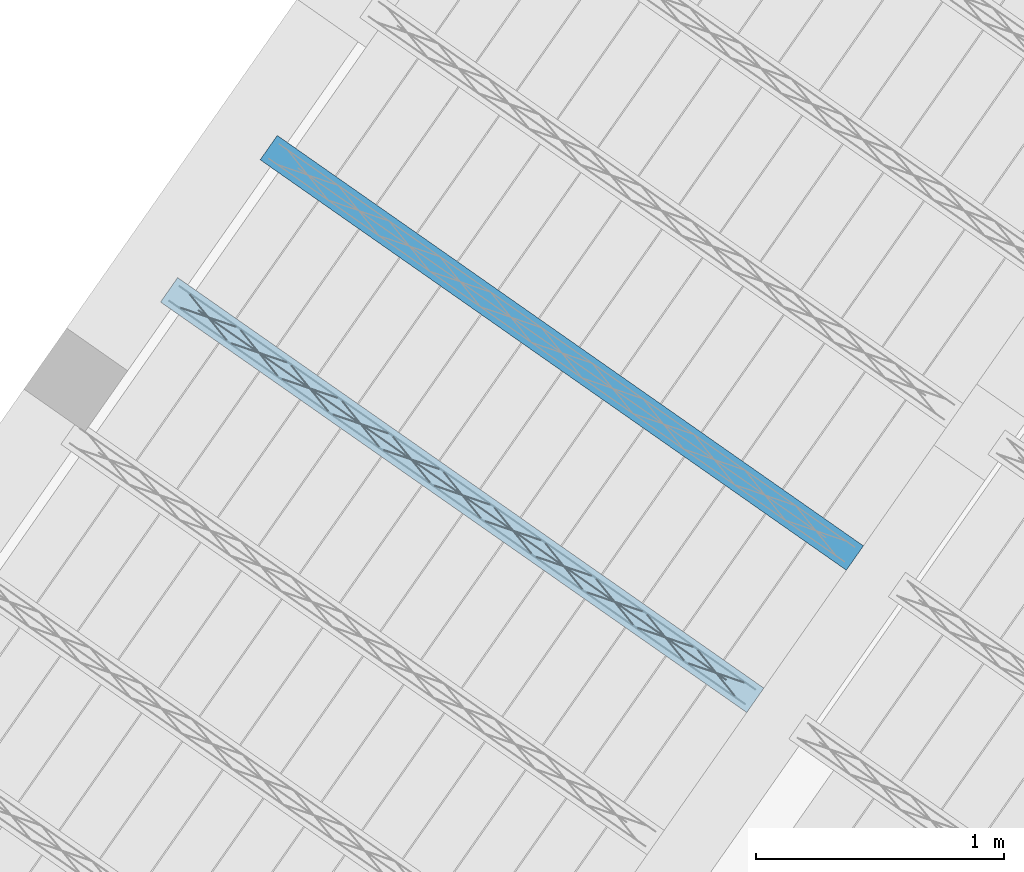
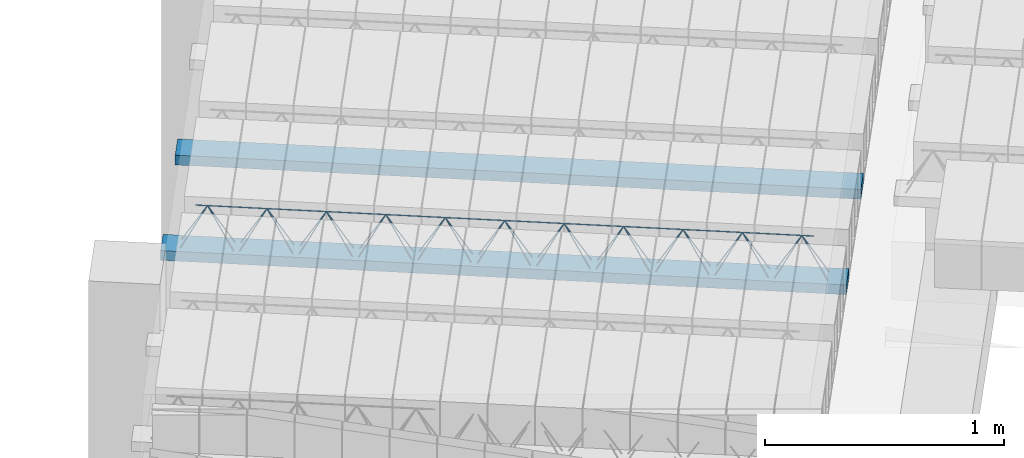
# One storey, part 19 of 80: 2 beams.
"""IFC2X3 building model written with IfcOpenShell, lengths in metres."""

import ifcopenshell
import ifcopenshell.guid

model = None  # the IFC model being written
_history = None  # IfcOwnerHistory: only IFC2X3 demands one
_inside = {}  # id of a spatial element -> (the spatial element, [elements in it])
_under = {}  # id of a project, library or spatial element -> (it, [spatial elements below it])
_declared = {}  # id of a project -> (the project, [libraries it declares])
_typed = {}  # id of a type object -> (the type object, [elements of that type])
_made_of = {}  # id of a material, layer set ... -> (it, [elements and type objects made of it])


def new_model(schema):
    """Start an empty IFC model of exactly this schema.

    Asked for "IFC4X3", IfcOpenShell would pick the latest addendum, in which some entities
    have other attributes; the version numbers below select the first issue.
    IFC2X3 requires an IfcOwnerHistory on every rooted entity: one is made here for all.
    """
    global model, _history
    if schema == "IFC4X3":
        model = ifcopenshell.file(schema_version=(4, 3, 0, 0))
    else:
        model = ifcopenshell.file(schema=schema)
    _inside.clear()
    _under.clear()
    _declared.clear()
    _typed.clear()
    _made_of.clear()
    _history = None
    if model.schema == "IFC2X3":
        org = make("IfcOrganization", Name="unknown")
        user = make(
            "IfcPersonAndOrganization",
            ThePerson=make("IfcPerson", FamilyName="unknown"),
            TheOrganization=org,
        )
        app = make(
            "IfcApplication",
            ApplicationDeveloper=org,
            Version="unknown",
            ApplicationFullName="unknown",
            ApplicationIdentifier="unknown",
        )
        _history = make(
            "IfcOwnerHistory",
            OwningUser=user,
            OwningApplication=app,
            ChangeAction="ADDED",
            CreationDate=0,
        )
    return model


def make(cls, **values):
    """One entity of the class cls with the attributes given. An attribute that is None is left unset."""
    return model.create_entity(
        cls, **{name: value for name, value in values.items() if value is not None}
    )


def entity(cls, *values):
    """Any entity or typed value of the class cls, its attributes in the order of the schema. None: left unset."""
    e = model.create_entity(cls)
    for i, value in enumerate(values):
        if value is not None:
            e[i] = value
    return e


def rooted(cls, **values):
    """An entity with a GlobalId (a new one), such as an element, a storey or a relation."""
    return make(cls, GlobalId=ifcopenshell.guid.new(), OwnerHistory=_history, **values)


def si_unit(unit_type, name, prefix=None):
    """IfcSIUnit, for example si_unit("LENGTHUNIT", "METRE", prefix="MILLI")."""
    return make("IfcSIUnit", UnitType=unit_type, Prefix=prefix, Name=name)


def converted_unit(unit_type, name, factor, base, dimensions=None, offset=None):
    """IfcConversionBasedUnit, such as the inch: factor (a typed value) times the base unit."""
    return make(
        "IfcConversionBasedUnit"
        if offset is None
        else "IfcConversionBasedUnitWithOffset",
        ConversionOffset=offset,
        Dimensions=None
        if dimensions is None
        else entity("IfcDimensionalExponents", *dimensions),
        UnitType=unit_type,
        Name=name,
        ConversionFactor=make(
            "IfcMeasureWithUnit", ValueComponent=factor, UnitComponent=base
        ),
    )


def derived_unit(unit_type, elements):
    """IfcDerivedUnit: a product of units, each with its exponent."""
    return make(
        "IfcDerivedUnit",
        Elements=[
            make("IfcDerivedUnitElement", Unit=unit, Exponent=power)
            for unit, power in elements
        ],
        UnitType=unit_type,
    )


def assignment(units):
    """IfcUnitAssignment: the units of a project."""
    return None if units is None else make("IfcUnitAssignment", Units=units)


def point(xyz):
    """IfcCartesianPoint."""
    return None if xyz is None else make("IfcCartesianPoint", Coordinates=xyz)


def direction(xyz):
    """IfcDirection."""
    return None if xyz is None else make("IfcDirection", DirectionRatios=xyz)


def frame(location, z_axis=None, x_axis=None):
    """IfcAxis2Placement3D, a coordinate frame: its origin and axes. An axis left out is left unset."""
    return make(
        "IfcAxis2Placement3D",
        Location=point(location),
        Axis=direction(z_axis),
        RefDirection=direction(x_axis),
    )


def frame_2d(location, x_axis=None):
    """IfcAxis2Placement2D, a coordinate frame in the plane: its origin and x axis."""
    return make(
        "IfcAxis2Placement2D", Location=point(location), RefDirection=direction(x_axis)
    )


def origin():
    """The frame at (0, 0, 0) with its axes left unset."""
    return frame((0.0, 0.0, 0.0))


def origin_2d_with_axis():
    """The frame at (0, 0) in the plane with the x axis (1, 0) written out."""
    return frame_2d((0.0, 0.0), x_axis=(1.0, 0.0))


def place(relative_to, where):
    """IfcLocalPlacement: puts the frame where relative to a parent placement (None: the world)."""
    return make(
        "IfcLocalPlacement", PlacementRelTo=relative_to, RelativePlacement=where
    )


def context(
    kind, dimensions, precision=None, world=None, true_north=None, identifier=None
):
    """IfcGeometricRepresentationContext, for example the 3D "Model" context."""
    return make(
        "IfcGeometricRepresentationContext",
        ContextIdentifier=identifier,
        ContextType=kind,
        CoordinateSpaceDimension=dimensions,
        Precision=precision,
        WorldCoordinateSystem=world,
        TrueNorth=true_north,
    )


def subcontext(parent, identifier, kind, view, scale=None):
    """IfcGeometricRepresentationSubContext, for example "Body" below "Model"."""
    return make(
        "IfcGeometricRepresentationSubContext",
        ContextIdentifier=identifier,
        ContextType=kind,
        ParentContext=parent,
        TargetScale=scale,
        TargetView=view,
    )


def project(units=None, contexts=None):
    """IfcProject with its units and contexts."""
    return rooted(
        "IfcProject",
        Name="project",
        RepresentationContexts=contexts,
        UnitsInContext=assignment(units),
    )


def spatial(cls, under=None, at=None, **own):
    """A site, building, storey or space (cls), placed at a placement, below another one or the project."""
    s = rooted(cls, ObjectPlacement=at, **own)
    if under is not None:
        _under.setdefault(under.id(), (under, []))[1].append(s)
    return s


def profile(cls, at=None, kind="AREA", **sizes):
    """A parametric profile (cls). Its sizes go by their IFC names, for example OverallWidth=200.0."""
    return make(cls, ProfileType=kind, Position=at, **sizes)


def rectangle(**sizes):
    """IfcRectangleProfileDef."""
    return profile("IfcRectangleProfileDef", **sizes)


def circle(**sizes):
    """IfcCircleProfileDef."""
    return profile("IfcCircleProfileDef", **sizes)


def extrude(swept, where, along, depth):
    """IfcExtrudedAreaSolid: the profile swept, set in the frame where, extruded along a direction by depth."""
    return make(
        "IfcExtrudedAreaSolid",
        SweptArea=swept,
        Position=where,
        ExtrudedDirection=direction(along),
        Depth=depth,
    )


def shape(context_of_items, identifier, shape_type, items):
    """IfcShapeRepresentation: the items that make up one representation, for example the "Body"."""
    return make(
        "IfcShapeRepresentation",
        ContextOfItems=context_of_items,
        RepresentationIdentifier=identifier,
        RepresentationType=shape_type,
        Items=items,
    )


def material(Name=None, Category=None):
    """IfcMaterial."""
    return make("IfcMaterial", Name=Name, Category=Category)


def made_of(thing, what):
    """Note that an element or type object is made of a material, layer set ...; save() writes the relation."""
    if what is not None:
        _made_of.setdefault(what.id(), (what, []))[1].append(thing)
    return thing


def type_object(cls, material=None, **own):
    """A type object (cls), such as IfcWallType, which elements share."""
    return made_of(rooted(cls, **own), material)


def element(
    cls,
    number,
    at=None,
    inside=None,
    cuts=None,
    type_object=None,
    material=None,
    context=None,
    identifier="Body",
    shape_type=None,
    held_by="IfcProductDefinitionShape",
    body=None,
    shapes=None,
    **own,
):
    """One element of the class cls, such as IfcWall. Its Tag is "e" and its number.

    at: its placement. inside: the storey or other place that contains it. cuts: it is an
    opening in that element (IfcRelVoidsElement). A single representation is given by context,
    identifier, shape_type and body (its items); several are given by shapes. held_by: the class
    of the entity that holds the representations. save() writes the other relations.
    """
    e = rooted(cls, Tag="e%d" % number, ObjectPlacement=at, **own)
    if body is not None:
        shapes = [shape(context, identifier, shape_type, body)]
    if shapes is not None:
        e.Representation = make(held_by, Representations=shapes)
    if inside is not None:
        _inside.setdefault(inside.id(), (inside, []))[1].append(e)
    if cuts is not None:
        rooted(
            "IfcRelVoidsElement", RelatingBuildingElement=cuts, RelatedOpeningElement=e
        )
    if type_object is not None:
        _typed.setdefault(type_object.id(), (type_object, []))[1].append(e)
    return made_of(e, material)


def aggregate(whole, parts):
    """IfcRelAggregates: a whole, such as a stair, and the parts it consists of."""
    return rooted("IfcRelAggregates", RelatingObject=whole, RelatedObjects=parts)


def save(model, path):
    """Write the relations noted so far, then the file.

    IfcRelAggregates (storeys below a building ...), IfcRelContainedInSpatialStructure (elements
    in a storey), IfcRelDefinesByType, IfcRelAssociatesMaterial and IfcRelDeclares: one each for
    every whole, place, type object, material and project.
    """
    for whole, parts in _under.values():
        aggregate(whole, parts)
    for where, things in _inside.values():
        rooted(
            "IfcRelContainedInSpatialStructure",
            RelatedElements=things,
            RelatingStructure=where,
        )
    for kind, things in _typed.values():
        rooted("IfcRelDefinesByType", RelatedObjects=things, RelatingType=kind)
    for what, things in _made_of.values():
        rooted("IfcRelAssociatesMaterial", RelatedObjects=things, RelatingMaterial=what)
    for by, libraries in _declared.values():
        rooted("IfcRelDeclares", RelatingContext=by, RelatedDefinitions=libraries)
    model.write(path)


model = new_model("IFC2X3")

# Units and contexts
model_context = context("Model", 3, precision=1e-05, world=origin(), true_north=direction((6.123031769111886e-17, 1.0)))
body_context = subcontext(model_context, "Body", "Model", "MODEL_VIEW")
ifc_project = project(units=[si_unit("LENGTHUNIT", "METRE"), si_unit("AREAUNIT", "SQUARE_METRE"), si_unit("VOLUMEUNIT", "CUBIC_METRE"), converted_unit("PLANEANGLEUNIT", "DEGREE", entity("IfcPlaneAngleMeasure", 0.017453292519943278), si_unit("PLANEANGLEUNIT", "RADIAN"), dimensions=[0, 0, 0, 0, 0, 0, 0]), si_unit("MASSUNIT", "GRAM", prefix="KILO"), derived_unit("MASSDENSITYUNIT", [(si_unit("MASSUNIT", "GRAM", prefix="KILO"), 1), (si_unit("LENGTHUNIT", "METRE"), -3)]), derived_unit("IONCONCENTRATIONUNIT", [(si_unit("MASSUNIT", "GRAM", prefix="KILO"), 1), (si_unit("LENGTHUNIT", "METRE"), -3)]), derived_unit("MOMENTOFINERTIAUNIT", [(si_unit("LENGTHUNIT", "METRE"), 4)]), si_unit("TIMEUNIT", "SECOND"), si_unit("FREQUENCYUNIT", "HERTZ"), si_unit("THERMODYNAMICTEMPERATUREUNIT", "DEGREE_CELSIUS"), derived_unit("THERMALTRANSMITTANCEUNIT", [(si_unit("MASSUNIT", "GRAM", prefix="KILO"), 1), (si_unit("THERMODYNAMICTEMPERATUREUNIT", "KELVIN"), -1), (si_unit("TIMEUNIT", "SECOND"), -3)]), derived_unit("THERMALCONDUCTANCEUNIT", [(si_unit("MASSUNIT", "GRAM", prefix="KILO"), 1), (si_unit("THERMODYNAMICTEMPERATUREUNIT", "KELVIN"), -1), (si_unit("TIMEUNIT", "SECOND"), -3), (si_unit("LENGTHUNIT", "METRE"), 1)]), derived_unit("VOLUMETRICFLOWRATEUNIT", [(si_unit("LENGTHUNIT", "METRE", prefix="DECI"), 3), (si_unit("TIMEUNIT", "SECOND"), -1)]), derived_unit("MASSFLOWRATEUNIT", [(si_unit("MASSUNIT", "GRAM", prefix="KILO"), 1), (si_unit("TIMEUNIT", "SECOND"), -1)]), derived_unit("ROTATIONALFREQUENCYUNIT", [(si_unit("TIMEUNIT", "SECOND"), -1)]), si_unit("ELECTRICCURRENTUNIT", "AMPERE"), si_unit("ELECTRICVOLTAGEUNIT", "VOLT"), si_unit("POWERUNIT", "WATT"), si_unit("FORCEUNIT", "NEWTON", prefix="KILO"), si_unit("ILLUMINANCEUNIT", "LUX"), si_unit("LUMINOUSFLUXUNIT", "LUMEN"), si_unit("LUMINOUSINTENSITYUNIT", "CANDELA"), si_unit("ENERGYUNIT", "JOULE"), derived_unit("USERDEFINED", [(si_unit("MASSUNIT", "GRAM", prefix="KILO"), -1), (si_unit("LENGTHUNIT", "METRE"), -2), (si_unit("TIMEUNIT", "SECOND"), 3), (si_unit("LUMINOUSFLUXUNIT", "LUMEN"), 1)]), derived_unit("USERDEFINED", [(si_unit("MASSUNIT", "GRAM", prefix="KILO"), 1), (si_unit("TIMEUNIT", "SECOND"), -3), (si_unit("LENGTHUNIT", "METRE"), 3), (si_unit("ELECTRICCURRENTUNIT", "AMPERE"), -2)]), derived_unit("SOUNDPOWERUNIT", [(si_unit("MASSUNIT", "GRAM", prefix="KILO"), 1), (si_unit("TIMEUNIT", "SECOND"), -3), (si_unit("LENGTHUNIT", "METRE"), 2)]), derived_unit("SOUNDPRESSUREUNIT", [(si_unit("MASSUNIT", "GRAM", prefix="KILO"), 1), (si_unit("LENGTHUNIT", "METRE"), -1), (si_unit("TIMEUNIT", "SECOND"), -2)]), derived_unit("LINEARVELOCITYUNIT", [(si_unit("LENGTHUNIT", "METRE"), 1), (si_unit("TIMEUNIT", "SECOND"), -1)]), si_unit("PRESSUREUNIT", "PASCAL"), derived_unit("USERDEFINED", [(si_unit("MASSUNIT", "GRAM", prefix="KILO"), 1), (si_unit("LENGTHUNIT", "METRE"), -2), (si_unit("TIMEUNIT", "SECOND"), -2)]), derived_unit("LINEARFORCEUNIT", [(si_unit("MASSUNIT", "GRAM", prefix="KILO"), 1), (si_unit("TIMEUNIT", "SECOND"), -2)]), derived_unit("PLANARFORCEUNIT", [(si_unit("MASSUNIT", "GRAM", prefix="KILO"), 1), (si_unit("LENGTHUNIT", "METRE"), -1), (si_unit("TIMEUNIT", "SECOND"), -2)]), derived_unit("SPECIFICHEATCAPACITYUNIT", [(si_unit("THERMODYNAMICTEMPERATUREUNIT", "KELVIN"), -1), (si_unit("LENGTHUNIT", "METRE"), 2), (si_unit("TIMEUNIT", "SECOND"), -2)]), derived_unit("HEATFLUXDENSITYUNIT", [(si_unit("MASSUNIT", "GRAM", prefix="KILO"), 1), (si_unit("TIMEUNIT", "SECOND"), -3)]), derived_unit("HEATINGVALUEUNIT", [(si_unit("LENGTHUNIT", "METRE"), 2), (si_unit("TIMEUNIT", "SECOND"), -2)]), derived_unit("VAPORPERMEABILITYUNIT", [(si_unit("LENGTHUNIT", "METRE"), -1), (si_unit("TIMEUNIT", "SECOND"), 1)]), derived_unit("DYNAMICVISCOSITYUNIT", [(si_unit("MASSUNIT", "GRAM", prefix="KILO"), 1), (si_unit("TIMEUNIT", "SECOND"), -1), (si_unit("LENGTHUNIT", "METRE"), -1)]), derived_unit("THERMALEXPANSIONCOEFFICIENTUNIT", [(si_unit("THERMODYNAMICTEMPERATUREUNIT", "KELVIN"), -1)]), derived_unit("MODULUSOFELASTICITYUNIT", [(si_unit("MASSUNIT", "GRAM", prefix="KILO"), 1), (si_unit("LENGTHUNIT", "METRE"), -1), (si_unit("TIMEUNIT", "SECOND"), -2)]), derived_unit("ISOTHERMALMOISTURECAPACITYUNIT", [(si_unit("MASSUNIT", "GRAM", prefix="KILO"), -1), (si_unit("LENGTHUNIT", "METRE"), 3)]), derived_unit("MOISTUREDIFFUSIVITYUNIT", [(si_unit("TIMEUNIT", "SECOND"), -1), (si_unit("LENGTHUNIT", "METRE"), 2)]), derived_unit("MASSPERLENGTHUNIT", [(si_unit("MASSUNIT", "GRAM", prefix="KILO"), 1), (si_unit("LENGTHUNIT", "METRE"), -1)]), derived_unit("THERMALRESISTANCEUNIT", [(si_unit("MASSUNIT", "GRAM", prefix="KILO"), -1), (si_unit("TIMEUNIT", "SECOND"), 3), (si_unit("THERMODYNAMICTEMPERATUREUNIT", "KELVIN"), 1)]), derived_unit("ACCELERATIONUNIT", [(si_unit("LENGTHUNIT", "METRE"), 1), (si_unit("TIMEUNIT", "SECOND"), -2)]), derived_unit("ANGULARVELOCITYUNIT", [(si_unit("TIMEUNIT", "SECOND"), -1), (si_unit("PLANEANGLEUNIT", "RADIAN"), 1)]), derived_unit("LINEARSTIFFNESSUNIT", [(si_unit("MASSUNIT", "GRAM", prefix="KILO"), 1), (si_unit("TIMEUNIT", "SECOND"), -2)]), derived_unit("WARPINGCONSTANTUNIT", [(si_unit("LENGTHUNIT", "METRE"), 6)]), derived_unit("LINEARMOMENTUNIT", [(si_unit("MASSUNIT", "GRAM", prefix="KILO"), 1), (si_unit("LENGTHUNIT", "METRE"), 1), (si_unit("TIMEUNIT", "SECOND"), -2)]), derived_unit("TORQUEUNIT", [(si_unit("MASSUNIT", "GRAM", prefix="KILO"), 1), (si_unit("LENGTHUNIT", "METRE"), 2), (si_unit("TIMEUNIT", "SECOND"), -2)])], contexts=[model_context])

# Site, building, storey
site_placement = place(None, origin())
site = spatial("IfcSite", under=ifc_project, at=site_placement, Name="Default", CompositionType="ELEMENT")
building_placement = place(site_placement, origin())
building = spatial("IfcBuilding", under=site, at=building_placement, CompositionType="ELEMENT")
storey_placement = place(building_placement, frame((0.0, 0.0, 95.94)))
storey = spatial("IfcBuildingStorey", under=building, at=storey_placement, Name="PB", CompositionType="ELEMENT", Elevation=95.94)

# Beams
beam_type = type_object("IfcBeamType", Name="Vigueta 6 (Paño 2) (Mf = 11.1)", PredefinedType="JOIST")
beam_1_placement = place(storey_placement, origin())
element("IfcBeam", 1, at=beam_1_placement, inside=storey, type_object=beam_type, Name="Vigueta 6 (Paño 2) (Mf = 11.1)", ObjectType="Mf = 11.1", context=body_context, shape_type="SweptSolid", body=[
    extrude(rectangle(XDim=2.8846030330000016, YDim=0.11999999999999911, at=frame_2d((0.0, 4.718447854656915e-16), x_axis=(1.0, 0.0))), frame((2.0088632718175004, 4.7586349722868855, 2.82), z_axis=(0.0, 0.0, 1.0), x_axis=(0.8191520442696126, -0.5735764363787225, 0.0)), (0.0, 0.0, 1.0), 0.04999999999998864),
    extrude(circle(Radius=0.0025, at=origin_2d_with_axis()), frame((0.8264099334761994, 5.542649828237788, 2.8449999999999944), z_axis=(0.8191520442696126, -0.5735764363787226, 0.0), x_axis=(-0.5735764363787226, -0.8191520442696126, 0.0)), (0.0, 0.0, 1.0), 2.8366030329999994),
    extrude(circle(Radius=0.0025, at=origin_2d_with_axis()), frame((3.0737609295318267, 4.012985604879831, 3.069999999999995), z_axis=(-0.8191520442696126, 0.5735764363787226, 0.0), x_axis=(-0.5735764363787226, -0.8191520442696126, 0.0)), (0.0, 0.0, 1.0), 2.6),
    extrude(circle(Radius=0.0025, at=origin_2d_with_axis()), frame((3.1145485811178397, 3.940477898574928, 2.8449999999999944), z_axis=(-0.3145304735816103, 0.389334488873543, 0.8657304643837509), x_axis=(-0.7778747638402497, -0.6284193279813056, 0.0)), (0.0, 0.0, 1.0), 0.2598961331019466),
    extrude(circle(Radius=0.0025, at=origin_2d_with_axis()), frame((2.909760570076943, 4.08387200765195, 2.8449999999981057), z_axis=(0.47343050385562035, -0.1624017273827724, 0.8657304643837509), x_axis=(-0.3244721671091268, -0.9458952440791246, 0.0)), (0.0, 0.0, 1.0), 0.25989613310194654),
    extrude(circle(Radius=0.0025, at=origin_2d_with_axis()), frame((2.9097605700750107, 4.083872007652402, 2.8449999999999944), z_axis=(-0.3145304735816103, 0.389334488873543, 0.8657304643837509), x_axis=(-0.7778747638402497, -0.6284193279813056, 0.0)), (0.0, 0.0, 1.0), 0.2598961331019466),
    extrude(circle(Radius=0.0025, at=origin_2d_with_axis()), frame((2.70497255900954, 4.22726611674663, 2.8449999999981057), z_axis=(0.47343050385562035, -0.1624017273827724, 0.8657304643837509), x_axis=(-0.3244721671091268, -0.9458952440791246, 0.0)), (0.0, 0.0, 1.0), 0.25989613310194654),
    extrude(circle(Radius=0.0025, at=origin_2d_with_axis()), frame((2.704972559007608, 4.227266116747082, 2.8449999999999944), z_axis=(-0.3145304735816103, 0.389334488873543, 0.8657304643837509), x_axis=(-0.7778747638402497, -0.6284193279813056, 0.0)), (0.0, 0.0, 1.0), 0.2598961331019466),
    extrude(circle(Radius=0.0025, at=origin_2d_with_axis()), frame((2.500184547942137, 4.370660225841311, 2.8449999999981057), z_axis=(0.47343050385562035, -0.1624017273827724, 0.8657304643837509), x_axis=(-0.3244721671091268, -0.9458952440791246, 0.0)), (0.0, 0.0, 1.0), 0.25989613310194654),
    extrude(circle(Radius=0.0025, at=origin_2d_with_axis()), frame((2.5001845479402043, 4.370660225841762, 2.8449999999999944), z_axis=(-0.3145304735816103, 0.389334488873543, 0.8657304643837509), x_axis=(-0.7778747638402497, -0.6284193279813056, 0.0)), (0.0, 0.0, 1.0), 0.2598961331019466),
    extrude(circle(Radius=0.0025, at=origin_2d_with_axis()), frame((2.295396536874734, 4.514054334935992, 2.8449999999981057), z_axis=(0.47343050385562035, -0.1624017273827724, 0.8657304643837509), x_axis=(-0.3244721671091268, -0.9458952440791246, 0.0)), (0.0, 0.0, 1.0), 0.25989613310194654),
    extrude(circle(Radius=0.0025, at=origin_2d_with_axis()), frame((2.2953965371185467, 4.514054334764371, 2.8449999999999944), z_axis=(-0.3145304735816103, 0.389334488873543, 0.8657304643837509), x_axis=(-0.7778747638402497, -0.6284193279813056, 0.0)), (0.0, 0.0, 1.0), 0.2598961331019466),
    extrude(circle(Radius=0.0025, at=origin_2d_with_axis()), frame((2.0906085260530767, 4.657448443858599, 2.8449999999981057), z_axis=(0.47343050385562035, -0.1624017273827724, 0.8657304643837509), x_axis=(-0.3244721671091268, -0.9458952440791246, 0.0)), (0.0, 0.0, 1.0), 0.25989613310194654),
    extrude(circle(Radius=0.0025, at=origin_2d_with_axis()), frame((2.0906085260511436, 4.657448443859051, 2.8449999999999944), z_axis=(-0.3145304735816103, 0.389334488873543, 0.8657304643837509), x_axis=(-0.7778747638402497, -0.6284193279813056, 0.0)), (0.0, 0.0, 1.0), 0.2598961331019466),
    extrude(circle(Radius=0.0025, at=origin_2d_with_axis()), frame((1.8858205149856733, 4.80084255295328, 2.8449999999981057), z_axis=(0.47343050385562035, -0.1624017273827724, 0.8657304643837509), x_axis=(-0.3244721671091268, -0.9458952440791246, 0.0)), (0.0, 0.0, 1.0), 0.25989613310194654),
    extrude(circle(Radius=0.0025, at=origin_2d_with_axis()), frame((1.8858205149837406, 4.800842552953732, 2.8449999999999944), z_axis=(-0.3145304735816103, 0.389334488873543, 0.8657304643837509), x_axis=(-0.7778747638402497, -0.6284193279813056, 0.0)), (0.0, 0.0, 1.0), 0.2598961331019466),
    extrude(circle(Radius=0.0025, at=origin_2d_with_axis()), frame((1.6810325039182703, 4.9442366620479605, 2.8449999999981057), z_axis=(0.47343050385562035, -0.1624017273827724, 0.8657304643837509), x_axis=(-0.3244721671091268, -0.9458952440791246, 0.0)), (0.0, 0.0, 1.0), 0.25989613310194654),
    extrude(circle(Radius=0.0025, at=origin_2d_with_axis()), frame((1.6810325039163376, 4.944236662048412, 2.8449999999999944), z_axis=(-0.3145304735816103, 0.389334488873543, 0.8657304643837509), x_axis=(-0.7778747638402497, -0.6284193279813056, 0.0)), (0.0, 0.0, 1.0), 0.2598961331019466),
    extrude(circle(Radius=0.0025, at=origin_2d_with_axis()), frame((1.4762444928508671, 5.08763077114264, 2.8449999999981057), z_axis=(0.47343050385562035, -0.1624017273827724, 0.8657304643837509), x_axis=(-0.3244721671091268, -0.9458952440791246, 0.0)), (0.0, 0.0, 1.0), 0.25989613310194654),
    extrude(circle(Radius=0.0025, at=origin_2d_with_axis()), frame((1.4762444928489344, 5.087630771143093, 2.8449999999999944), z_axis=(-0.3145304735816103, 0.389334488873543, 0.8657304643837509), x_axis=(-0.7778747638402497, -0.6284193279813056, 0.0)), (0.0, 0.0, 1.0), 0.2598961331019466),
    extrude(circle(Radius=0.0025, at=origin_2d_with_axis()), frame((1.271456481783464, 5.231024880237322, 2.8449999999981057), z_axis=(0.47343050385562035, -0.1624017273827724, 0.8657304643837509), x_axis=(-0.3244721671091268, -0.9458952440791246, 0.0)), (0.0, 0.0, 1.0), 0.25989613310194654),
    extrude(circle(Radius=0.0025, at=origin_2d_with_axis()), frame((1.271456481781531, 5.231024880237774, 2.8449999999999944), z_axis=(-0.3145304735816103, 0.389334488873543, 0.8657304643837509), x_axis=(-0.7778747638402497, -0.6284193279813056, 0.0)), (0.0, 0.0, 1.0), 0.2598961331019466),
    extrude(circle(Radius=0.0025, at=origin_2d_with_axis()), frame((1.0666684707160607, 5.3744189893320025, 2.8449999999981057), z_axis=(0.47343050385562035, -0.1624017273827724, 0.8657304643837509), x_axis=(-0.3244721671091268, -0.9458952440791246, 0.0)), (0.0, 0.0, 1.0), 0.25989613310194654),
    extrude(circle(Radius=0.0025, at=origin_2d_with_axis()), frame((1.0666684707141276, 5.374418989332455, 2.8449999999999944), z_axis=(-0.3145304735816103, 0.389334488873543, 0.8657304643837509), x_axis=(-0.7778747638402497, -0.6284193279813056, 0.0)), (0.0, 0.0, 1.0), 0.2598961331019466),
    extrude(circle(Radius=0.0025, at=origin_2d_with_axis()), frame((0.8618804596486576, 5.517813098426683, 2.8449999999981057), z_axis=(0.47343050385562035, -0.1624017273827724, 0.8657304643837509), x_axis=(-0.3244721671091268, -0.9458952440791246, 0.0)), (0.0, 0.0, 1.0), 0.25989613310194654),
    extrude(circle(Radius=0.0025, at=origin_2d_with_axis()), frame((0.8677074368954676, 5.601628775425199, 2.8449999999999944), z_axis=(0.8191520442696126, -0.5735764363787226, 0.0), x_axis=(-0.5735764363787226, -0.8191520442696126, 0.0)), (0.0, 0.0, 1.0), 2.8366030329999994),
    extrude(circle(Radius=0.0025, at=origin_2d_with_axis()), frame((3.155846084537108, 3.9994568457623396, 2.8449999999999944), z_axis=(-0.47343050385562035, 0.1624017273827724, 0.8657304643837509), x_axis=(-0.3244721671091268, -0.9458952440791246, 0.0)), (0.0, 0.0, 1.0), 0.25989613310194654),
    extrude(circle(Radius=0.0025, at=origin_2d_with_axis()), frame((2.9510580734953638, 4.142850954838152, 2.8449999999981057), z_axis=(0.3145304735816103, -0.389334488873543, 0.8657304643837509), x_axis=(-0.7778747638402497, -0.6284193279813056, 0.0)), (0.0, 0.0, 1.0), 0.2598961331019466),
    extrude(circle(Radius=0.0025, at=origin_2d_with_axis()), frame((2.951058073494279, 4.142850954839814, 2.8449999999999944), z_axis=(-0.47343050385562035, 0.1624017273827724, 0.8657304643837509), x_axis=(-0.3244721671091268, -0.9458952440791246, 0.0)), (0.0, 0.0, 1.0), 0.25989613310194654),
    extrude(circle(Radius=0.0025, at=origin_2d_with_axis()), frame((2.746270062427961, 4.2862450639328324, 2.8449999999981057), z_axis=(0.3145304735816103, -0.389334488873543, 0.8657304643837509), x_axis=(-0.7778747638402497, -0.6284193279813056, 0.0)), (0.0, 0.0, 1.0), 0.2598961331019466),
    extrude(circle(Radius=0.0025, at=origin_2d_with_axis()), frame((2.746270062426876, 4.286245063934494, 2.8449999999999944), z_axis=(-0.47343050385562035, 0.1624017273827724, 0.8657304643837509), x_axis=(-0.3244721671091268, -0.9458952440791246, 0.0)), (0.0, 0.0, 1.0), 0.25989613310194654),
    extrude(circle(Radius=0.0025, at=origin_2d_with_axis()), frame((2.541482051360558, 4.429639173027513, 2.8449999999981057), z_axis=(0.3145304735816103, -0.389334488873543, 0.8657304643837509), x_axis=(-0.7778747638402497, -0.6284193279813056, 0.0)), (0.0, 0.0, 1.0), 0.2598961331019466),
    extrude(circle(Radius=0.0025, at=origin_2d_with_axis()), frame((2.5414820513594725, 4.429639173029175, 2.8449999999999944), z_axis=(-0.47343050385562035, 0.1624017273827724, 0.8657304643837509), x_axis=(-0.3244721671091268, -0.9458952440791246, 0.0)), (0.0, 0.0, 1.0), 0.25989613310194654),
    extrude(circle(Radius=0.0025, at=origin_2d_with_axis()), frame((2.3366940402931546, 4.573033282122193, 2.8449999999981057), z_axis=(0.3145304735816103, -0.389334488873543, 0.8657304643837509), x_axis=(-0.7778747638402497, -0.6284193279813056, 0.0)), (0.0, 0.0, 1.0), 0.2598961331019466),
    extrude(circle(Radius=0.0025, at=origin_2d_with_axis()), frame((2.336694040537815, 4.5730332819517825, 2.8449999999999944), z_axis=(-0.47343050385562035, 0.1624017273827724, 0.8657304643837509), x_axis=(-0.3244721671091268, -0.9458952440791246, 0.0)), (0.0, 0.0, 1.0), 0.25989613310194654),
    extrude(circle(Radius=0.0025, at=origin_2d_with_axis()), frame((2.131906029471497, 4.716427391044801, 2.8449999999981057), z_axis=(0.3145304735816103, -0.389334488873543, 0.8657304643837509), x_axis=(-0.7778747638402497, -0.6284193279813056, 0.0)), (0.0, 0.0, 1.0), 0.2598961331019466),
    extrude(circle(Radius=0.0025, at=origin_2d_with_axis()), frame((2.1319060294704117, 4.716427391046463, 2.8449999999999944), z_axis=(-0.47343050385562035, 0.1624017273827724, 0.8657304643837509), x_axis=(-0.3244721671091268, -0.9458952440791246, 0.0)), (0.0, 0.0, 1.0), 0.25989613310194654),
    extrude(circle(Radius=0.0025, at=origin_2d_with_axis()), frame((1.9271180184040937, 4.859821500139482, 2.8449999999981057), z_axis=(0.3145304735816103, -0.389334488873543, 0.8657304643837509), x_axis=(-0.7778747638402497, -0.6284193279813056, 0.0)), (0.0, 0.0, 1.0), 0.2598961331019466),
    extrude(circle(Radius=0.0025, at=origin_2d_with_axis()), frame((1.9271180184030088, 4.859821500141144, 2.8449999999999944), z_axis=(-0.47343050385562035, 0.1624017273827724, 0.8657304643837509), x_axis=(-0.3244721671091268, -0.9458952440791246, 0.0)), (0.0, 0.0, 1.0), 0.25989613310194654),
    extrude(circle(Radius=0.0025, at=origin_2d_with_axis()), frame((1.722330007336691, 5.003215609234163, 2.8449999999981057), z_axis=(0.3145304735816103, -0.389334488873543, 0.8657304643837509), x_axis=(-0.7778747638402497, -0.6284193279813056, 0.0)), (0.0, 0.0, 1.0), 0.2598961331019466),
    extrude(circle(Radius=0.0025, at=origin_2d_with_axis()), frame((1.7223300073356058, 5.0032156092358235, 2.8449999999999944), z_axis=(-0.47343050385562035, 0.1624017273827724, 0.8657304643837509), x_axis=(-0.3244721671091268, -0.9458952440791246, 0.0)), (0.0, 0.0, 1.0), 0.25989613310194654),
    extrude(circle(Radius=0.0025, at=origin_2d_with_axis()), frame((1.5175419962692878, 5.146609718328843, 2.8449999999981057), z_axis=(0.3145304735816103, -0.389334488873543, 0.8657304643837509), x_axis=(-0.7778747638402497, -0.6284193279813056, 0.0)), (0.0, 0.0, 1.0), 0.2598961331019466),
    extrude(circle(Radius=0.0025, at=origin_2d_with_axis()), frame((1.5175419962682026, 5.146609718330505, 2.8449999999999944), z_axis=(-0.47343050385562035, 0.1624017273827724, 0.8657304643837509), x_axis=(-0.3244721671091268, -0.9458952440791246, 0.0)), (0.0, 0.0, 1.0), 0.25989613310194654),
    extrude(circle(Radius=0.0025, at=origin_2d_with_axis()), frame((1.3127539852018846, 5.290003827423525, 2.8449999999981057), z_axis=(0.3145304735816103, -0.389334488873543, 0.8657304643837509), x_axis=(-0.7778747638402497, -0.6284193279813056, 0.0)), (0.0, 0.0, 1.0), 0.2598961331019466),
    extrude(circle(Radius=0.0025, at=origin_2d_with_axis()), frame((1.3127539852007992, 5.290003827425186, 2.8449999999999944), z_axis=(-0.47343050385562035, 0.1624017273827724, 0.8657304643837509), x_axis=(-0.3244721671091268, -0.9458952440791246, 0.0)), (0.0, 0.0, 1.0), 0.25989613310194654),
    extrude(circle(Radius=0.0025, at=origin_2d_with_axis()), frame((1.1079659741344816, 5.433397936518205, 2.8449999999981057), z_axis=(0.3145304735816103, -0.389334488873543, 0.8657304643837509), x_axis=(-0.7778747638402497, -0.6284193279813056, 0.0)), (0.0, 0.0, 1.0), 0.2598961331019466),
    extrude(circle(Radius=0.0025, at=origin_2d_with_axis()), frame((1.1079659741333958, 5.4333979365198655, 2.8449999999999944), z_axis=(-0.47343050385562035, 0.1624017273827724, 0.8657304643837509), x_axis=(-0.3244721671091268, -0.9458952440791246, 0.0)), (0.0, 0.0, 1.0), 0.25989613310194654),
    extrude(circle(Radius=0.0025, at=origin_2d_with_axis()), frame((0.9031779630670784, 5.576792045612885, 2.8449999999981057), z_axis=(0.3145304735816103, -0.389334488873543, 0.8657304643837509), x_axis=(-0.7778747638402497, -0.6284193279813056, 0.0)), (0.0, 0.0, 1.0), 0.2598961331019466),
])
ifc_material = material(Name="Hormigón armado")
beam_2_placement = place(storey_placement, origin())
element("IfcBeam", 2, at=beam_2_placement, inside=storey, material=ifc_material, Name="237975", context=body_context, shape_type="SweptSolid", body=[
    extrude(rectangle(XDim=0.04999999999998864, YDim=0.1200000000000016, at=frame_2d((1.7324683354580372e-14, -3.8163916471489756e-17), x_axis=(1.0, 0.0))), frame((1.2289314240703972, 6.1592913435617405, 2.8450000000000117), z_axis=(0.8191520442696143, -0.5735764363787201, 0.0), x_axis=(0.0, 0.0, -1.0)), (0.0, 0.0, 1.0), 2.884567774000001),
])

save(model, "model.ifc")
